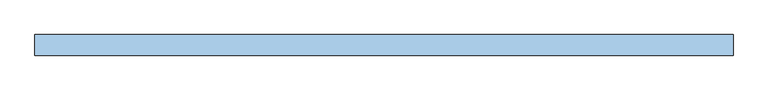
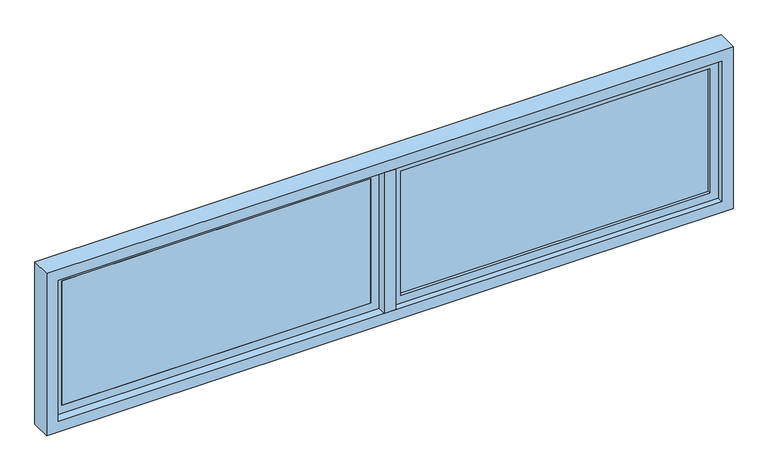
"""IFC4 building model written with IfcOpenShell, lengths in millimetres: window geometry, 固定窗-双扇 : 2400×600."""

import ifcopenshell
import ifcopenshell.guid

model = None  # the IFC model being written
_history = None  # IfcOwnerHistory: only IFC2X3 demands one
_inside = {}  # id of a spatial element -> (the spatial element, [elements in it])
_under = {}  # id of a project, library or spatial element -> (it, [spatial elements below it])
_declared = {}  # id of a project -> (the project, [libraries it declares])
_typed = {}  # id of a type object -> (the type object, [elements of that type])
_made_of = {}  # id of a material, layer set ... -> (it, [elements and type objects made of it])


def new_model(schema):
    """Start an empty IFC model of exactly this schema.

    Asked for "IFC4X3", IfcOpenShell would pick the latest addendum, in which some entities
    have other attributes; the version numbers below select the first issue.
    IFC2X3 requires an IfcOwnerHistory on every rooted entity: one is made here for all.
    """
    global model, _history
    if schema == "IFC4X3":
        model = ifcopenshell.file(schema_version=(4, 3, 0, 0))
    else:
        model = ifcopenshell.file(schema=schema)
    _inside.clear()
    _under.clear()
    _declared.clear()
    _typed.clear()
    _made_of.clear()
    _history = None
    if model.schema == "IFC2X3":
        org = make("IfcOrganization", Name="unknown")
        user = make(
            "IfcPersonAndOrganization",
            ThePerson=make("IfcPerson", FamilyName="unknown"),
            TheOrganization=org,
        )
        app = make(
            "IfcApplication",
            ApplicationDeveloper=org,
            Version="unknown",
            ApplicationFullName="unknown",
            ApplicationIdentifier="unknown",
        )
        _history = make(
            "IfcOwnerHistory",
            OwningUser=user,
            OwningApplication=app,
            ChangeAction="ADDED",
            CreationDate=0,
        )
    return model


def make(cls, **values):
    """One entity of the class cls with the attributes given. An attribute that is None is left unset."""
    return model.create_entity(
        cls, **{name: value for name, value in values.items() if value is not None}
    )


def rooted(cls, **values):
    """An entity with a GlobalId (a new one), such as an element, a storey or a relation."""
    return make(cls, GlobalId=ifcopenshell.guid.new(), OwnerHistory=_history, **values)


def si_unit(unit_type, name, prefix=None):
    """IfcSIUnit, for example si_unit("LENGTHUNIT", "METRE", prefix="MILLI")."""
    return make("IfcSIUnit", UnitType=unit_type, Prefix=prefix, Name=name)


def assignment(units):
    """IfcUnitAssignment: the units of a project."""
    return None if units is None else make("IfcUnitAssignment", Units=units)


def point(xyz):
    """IfcCartesianPoint."""
    return None if xyz is None else make("IfcCartesianPoint", Coordinates=xyz)


def direction(xyz):
    """IfcDirection."""
    return None if xyz is None else make("IfcDirection", DirectionRatios=xyz)


def frame(location, z_axis=None, x_axis=None):
    """IfcAxis2Placement3D, a coordinate frame: its origin and axes. An axis left out is left unset."""
    return make(
        "IfcAxis2Placement3D",
        Location=point(location),
        Axis=direction(z_axis),
        RefDirection=direction(x_axis),
    )


def origin():
    """The frame at (0, 0, 0) with its axes left unset."""
    return frame((0.0, 0.0, 0.0))


def place(relative_to, where):
    """IfcLocalPlacement: puts the frame where relative to a parent placement (None: the world)."""
    return make(
        "IfcLocalPlacement", PlacementRelTo=relative_to, RelativePlacement=where
    )


def context(
    kind, dimensions, precision=None, world=None, true_north=None, identifier=None
):
    """IfcGeometricRepresentationContext, for example the 3D "Model" context."""
    return make(
        "IfcGeometricRepresentationContext",
        ContextIdentifier=identifier,
        ContextType=kind,
        CoordinateSpaceDimension=dimensions,
        Precision=precision,
        WorldCoordinateSystem=world,
        TrueNorth=true_north,
    )


def project(units=None, contexts=None):
    """IfcProject with its units and contexts."""
    return rooted(
        "IfcProject",
        Name="project",
        RepresentationContexts=contexts,
        UnitsInContext=assignment(units),
    )


def spatial(cls, under=None, at=None, **own):
    """A site, building, storey or space (cls), placed at a placement, below another one or the project."""
    s = rooted(cls, ObjectPlacement=at, **own)
    if under is not None:
        _under.setdefault(under.id(), (under, []))[1].append(s)
    return s


def polyline(points):
    """IfcPolyline through the points."""
    return make("IfcPolyline", Points=[point(p) for p in points])


def outline(outer, holes=None, kind="AREA"):
    """IfcArbitraryClosedProfileDef: a profile drawn as a closed curve; with holes, ...WithVoids."""
    if holes is None:
        return make("IfcArbitraryClosedProfileDef", ProfileType=kind, OuterCurve=outer)
    return make(
        "IfcArbitraryProfileDefWithVoids",
        ProfileType=kind,
        OuterCurve=outer,
        InnerCurves=holes,
    )


def extrude(swept, where, along, depth):
    """IfcExtrudedAreaSolid: the profile swept, set in the frame where, extruded along a direction by depth."""
    return make(
        "IfcExtrudedAreaSolid",
        SweptArea=swept,
        Position=where,
        ExtrudedDirection=direction(along),
        Depth=depth,
    )


def shape(context_of_items, identifier, shape_type, items):
    """IfcShapeRepresentation: the items that make up one representation, for example the "Body"."""
    return make(
        "IfcShapeRepresentation",
        ContextOfItems=context_of_items,
        RepresentationIdentifier=identifier,
        RepresentationType=shape_type,
        Items=items,
    )


def source(mapping_origin, context_of_items, identifier, shape_type, items):
    """IfcRepresentationMap: a shape defined once, which mapped items show again and again."""
    return make(
        "IfcRepresentationMap",
        MappingOrigin=mapping_origin,
        MappedRepresentation=shape(context_of_items, identifier, shape_type, items),
    )


def transform(
    local_origin,
    x_axis=None,
    y_axis=None,
    z_axis=None,
    scale=None,
    scale2=None,
    scale3=None,
    uniform=True,
):
    """IfcCartesianTransformationOperator3D, or its non-uniform kind. x_axis, y_axis, z_axis: its Axis1, 2, 3."""
    if uniform:
        return make(
            "IfcCartesianTransformationOperator3D",
            Axis1=direction(x_axis),
            Axis2=direction(y_axis),
            LocalOrigin=point(local_origin),
            Scale=scale,
            Axis3=direction(z_axis),
        )
    return make(
        "IfcCartesianTransformationOperator3DnonUniform",
        Axis1=direction(x_axis),
        Axis2=direction(y_axis),
        LocalOrigin=point(local_origin),
        Scale=scale,
        Axis3=direction(z_axis),
        Scale2=scale2,
        Scale3=scale3,
    )


def mapped(mapping_source, mapping_target):
    """IfcMappedItem: shows the shape of a source again, moved by a transform."""
    return make(
        "IfcMappedItem", MappingSource=mapping_source, MappingTarget=mapping_target
    )


def made_of(thing, what):
    """Note that an element or type object is made of a material, layer set ...; save() writes the relation."""
    if what is not None:
        _made_of.setdefault(what.id(), (what, []))[1].append(thing)
    return thing


def element(
    cls,
    number,
    at=None,
    inside=None,
    cuts=None,
    type_object=None,
    material=None,
    context=None,
    identifier="Body",
    shape_type=None,
    held_by="IfcProductDefinitionShape",
    body=None,
    shapes=None,
    **own,
):
    """One element of the class cls, such as IfcWall. Its Tag is "e" and its number.

    at: its placement. inside: the storey or other place that contains it. cuts: it is an
    opening in that element (IfcRelVoidsElement). A single representation is given by context,
    identifier, shape_type and body (its items); several are given by shapes. held_by: the class
    of the entity that holds the representations. save() writes the other relations.
    """
    e = rooted(cls, Tag="e%d" % number, ObjectPlacement=at, **own)
    if body is not None:
        shapes = [shape(context, identifier, shape_type, body)]
    if shapes is not None:
        e.Representation = make(held_by, Representations=shapes)
    if inside is not None:
        _inside.setdefault(inside.id(), (inside, []))[1].append(e)
    if cuts is not None:
        rooted(
            "IfcRelVoidsElement", RelatingBuildingElement=cuts, RelatedOpeningElement=e
        )
    if type_object is not None:
        _typed.setdefault(type_object.id(), (type_object, []))[1].append(e)
    return made_of(e, material)


def aggregate(whole, parts):
    """IfcRelAggregates: a whole, such as a stair, and the parts it consists of."""
    return rooted("IfcRelAggregates", RelatingObject=whole, RelatedObjects=parts)


def save(model, path):
    """Write the relations noted so far, then the file.

    IfcRelAggregates (storeys below a building ...), IfcRelContainedInSpatialStructure (elements
    in a storey), IfcRelDefinesByType, IfcRelAssociatesMaterial and IfcRelDeclares: one each for
    every whole, place, type object, material and project.
    """
    for whole, parts in _under.values():
        aggregate(whole, parts)
    for where, things in _inside.values():
        rooted(
            "IfcRelContainedInSpatialStructure",
            RelatedElements=things,
            RelatingStructure=where,
        )
    for kind, things in _typed.values():
        rooted("IfcRelDefinesByType", RelatedObjects=things, RelatingType=kind)
    for what, things in _made_of.values():
        rooted("IfcRelAssociatesMaterial", RelatedObjects=things, RelatingMaterial=what)
    for by, libraries in _declared.values():
        rooted("IfcRelDeclares", RelatingContext=by, RelatedDefinitions=libraries)
    model.write(path)


def window_d0687fa4(model_context):
    return source(origin(), model_context, "Body", "SweptSolid", [
        extrude(outline(polyline([(1130.0, 44.5062488), (50.0, 44.5062488), (50.0, 54.5062488), (1130.0, 54.5062488), (1130.0, 44.5062488)])), frame((0.0, 0.0, 870.0), z_axis=(0.0, 0.0, 1.0), x_axis=(1.0, 0.0, 0.0)), (0.0, 0.0, 1.0), 460.0),
        extrude(outline(polyline([(-50.0, 44.5062488), (-1130.0, 44.5062488), (-1130.0, 54.5062488), (-50.0, 54.5062488), (-50.0, 44.5062488)])), frame((0.0, 0.0, 870.0), z_axis=(0.0, 0.0, 1.0), x_axis=(1.0, 0.0, 0.0)), (0.0, 0.0, 1.0), 460.0),
        extrude(outline(polyline([(1360.0, 20.0), (840.0, 20.0), (840.0, 1160.0), (1360.0, 1160.0), (1360.0, 20.0)]), holes=[polyline([(1330.0, 1130.0), (870.0, 1130.0), (870.0, 50.0), (1330.0, 50.0), (1330.0, 1130.0)])]), frame((0.0, 34.5062488, 0.0), z_axis=(0.0, 1.0, 0.0), x_axis=(0.0, 0.0, 1.0)), (0.0, 0.0, 1.0), 30.0),
        extrude(outline(polyline([(1360.0, -1160.0), (840.0, -1160.0), (840.0, -20.0), (1360.0, -20.0), (1360.0, -1160.0)]), holes=[polyline([(1330.0, -50.0), (870.0, -50.0), (870.0, -1130.0), (1330.0, -1130.0), (1330.0, -50.0)])]), frame((0.0, 44.5062488, 0.0), z_axis=(0.0, 1.0, 0.0), x_axis=(0.0, 0.0, 1.0)), (0.0, 0.0, 1.0), 10.0),
        extrude(outline(polyline([(20.0, 85.0), (20.0, 14.0124975), (-20.0, 14.0124975), (-20.0, 85.0), (20.0, 85.0)])), frame((0.0, 0.0, 840.0), z_axis=(0.0, 0.0, 1.0), x_axis=(1.0, 0.0, 0.0)), (0.0, 0.0, 1.0), 520.0),
        extrude(outline(polyline([(1400.0, -1200.0), (800.0, -1200.0), (800.0, 1200.0), (1400.0, 1200.0), (1400.0, -1200.0)]), holes=[polyline([(1360.0, 1160.0), (840.0, 1160.0), (840.0, -1160.0), (1360.0, -1160.0), (1360.0, 1160.0)])]), frame((0.0, 14.0124975, 0.0), z_axis=(0.0, 1.0, 0.0), x_axis=(0.0, 0.0, 1.0)), (0.0, 0.0, 1.0), 70.9875025),
    ])


if __name__ == "__main__":
    model = new_model("IFC4")
    model_context = context("Model", 3, world=origin())
    ifc_project = project(units=[si_unit("LENGTHUNIT", "METRE", prefix="MILLI")], contexts=[model_context])
    site = spatial("IfcSite", under=ifc_project)
    building = spatial("IfcBuilding", under=site)
    placement = place(None, origin())
    window_shape = window_d0687fa4(model_context)
    element("IfcWindow", 1, ObjectType="固定窗-双扇 : 2400×600", at=placement, inside=building, context=model_context, shape_type="MappedRepresentation", body=[
        mapped(window_shape, transform((0.0, 0.0, 0.0), x_axis=(1.0, 0.0, 0.0), y_axis=(0.0, 1.0, 0.0), z_axis=(0.0, 0.0, 1.0))),
    ])
    save(model, "model.ifc")
